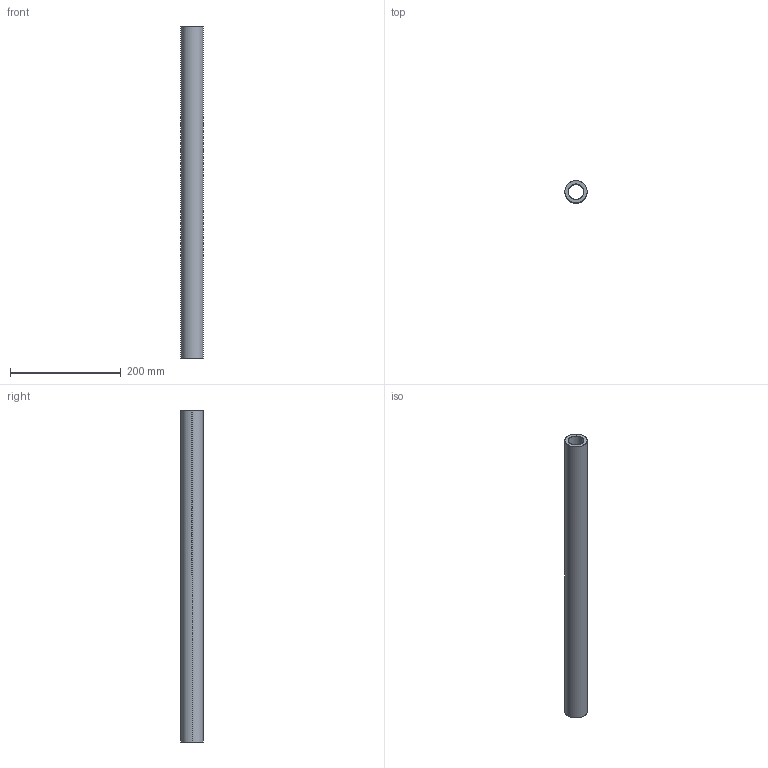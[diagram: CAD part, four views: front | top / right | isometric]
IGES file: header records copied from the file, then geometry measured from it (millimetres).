
Start section: SolidWorks IGES file using analytic representation for surfaces
Global section: file name: C:\Users\IanO\Desktop\L1771_v2\L1771.40_v2\L1771.40_v2_20230705_IGES\L1771.40-0600.igs; native system: SolidWorks 2019; preprocessor: SolidWorks 2019; author: IanO; date: 230705.160051; units: millimetre
Bounding box: 40 x 40 x 600 mm (x, y, z)
Surface area: 129458.8 mm2 (no closed solid volume)
Topology: 0 solids, 0 shells, 6 faces, 272 edges, 272 vertices
Faces by surface type: revolution 4, bspline 2
